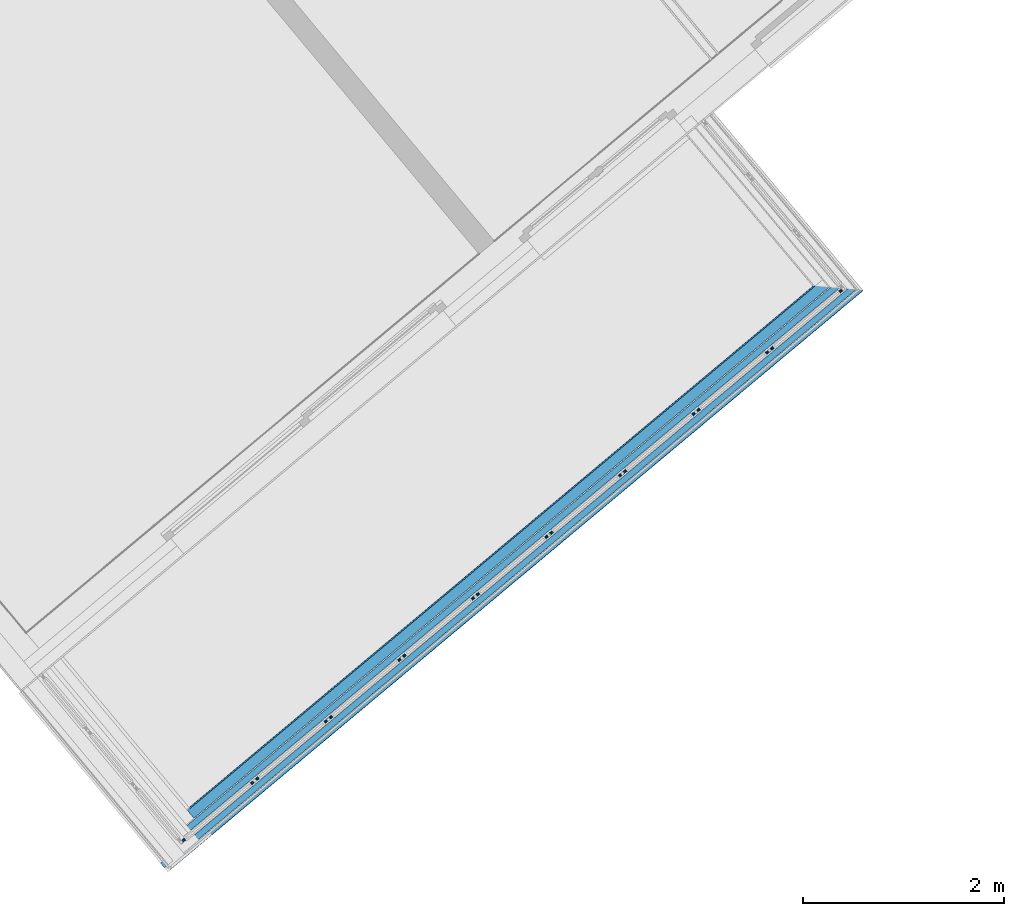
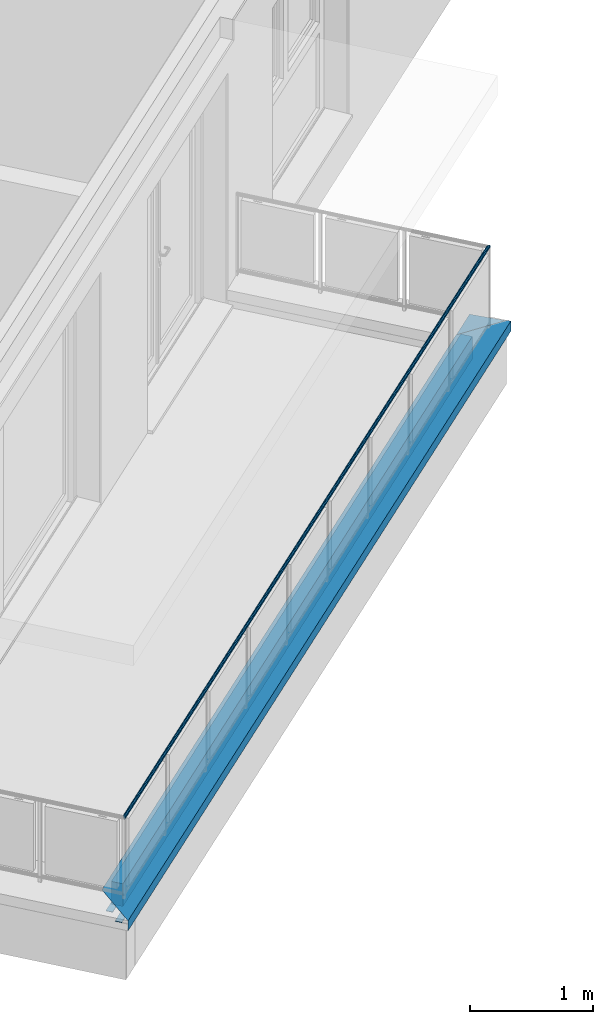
# One storey, part 20 of 53: 6 building element parts, 2 elements without a shape of their own.
"""IFC4 building model written with IfcOpenShell, lengths in metres."""

import ifcopenshell
import ifcopenshell.guid

model = None  # the IFC model being written
_history = None  # IfcOwnerHistory: only IFC2X3 demands one
_inside = {}  # id of a spatial element -> (the spatial element, [elements in it])
_under = {}  # id of a project, library or spatial element -> (it, [spatial elements below it])
_declared = {}  # id of a project -> (the project, [libraries it declares])
_typed = {}  # id of a type object -> (the type object, [elements of that type])
_made_of = {}  # id of a material, layer set ... -> (it, [elements and type objects made of it])


def new_model(schema):
    """Start an empty IFC model of exactly this schema.

    Asked for "IFC4X3", IfcOpenShell would pick the latest addendum, in which some entities
    have other attributes; the version numbers below select the first issue.
    IFC2X3 requires an IfcOwnerHistory on every rooted entity: one is made here for all.
    """
    global model, _history
    if schema == "IFC4X3":
        model = ifcopenshell.file(schema_version=(4, 3, 0, 0))
    else:
        model = ifcopenshell.file(schema=schema)
    _inside.clear()
    _under.clear()
    _declared.clear()
    _typed.clear()
    _made_of.clear()
    _history = None
    if model.schema == "IFC2X3":
        org = make("IfcOrganization", Name="unknown")
        user = make(
            "IfcPersonAndOrganization",
            ThePerson=make("IfcPerson", FamilyName="unknown"),
            TheOrganization=org,
        )
        app = make(
            "IfcApplication",
            ApplicationDeveloper=org,
            Version="unknown",
            ApplicationFullName="unknown",
            ApplicationIdentifier="unknown",
        )
        _history = make(
            "IfcOwnerHistory",
            OwningUser=user,
            OwningApplication=app,
            ChangeAction="ADDED",
            CreationDate=0,
        )
    return model


def make(cls, **values):
    """One entity of the class cls with the attributes given. An attribute that is None is left unset."""
    return model.create_entity(
        cls, **{name: value for name, value in values.items() if value is not None}
    )


def entity(cls, *values):
    """Any entity or typed value of the class cls, its attributes in the order of the schema. None: left unset."""
    e = model.create_entity(cls)
    for i, value in enumerate(values):
        if value is not None:
            e[i] = value
    return e


def rooted(cls, **values):
    """An entity with a GlobalId (a new one), such as an element, a storey or a relation."""
    return make(cls, GlobalId=ifcopenshell.guid.new(), OwnerHistory=_history, **values)


def si_unit(unit_type, name, prefix=None):
    """IfcSIUnit, for example si_unit("LENGTHUNIT", "METRE", prefix="MILLI")."""
    return make("IfcSIUnit", UnitType=unit_type, Prefix=prefix, Name=name)


def converted_unit(unit_type, name, factor, base, dimensions=None, offset=None):
    """IfcConversionBasedUnit, such as the inch: factor (a typed value) times the base unit."""
    return make(
        "IfcConversionBasedUnit"
        if offset is None
        else "IfcConversionBasedUnitWithOffset",
        ConversionOffset=offset,
        Dimensions=None
        if dimensions is None
        else entity("IfcDimensionalExponents", *dimensions),
        UnitType=unit_type,
        Name=name,
        ConversionFactor=make(
            "IfcMeasureWithUnit", ValueComponent=factor, UnitComponent=base
        ),
    )


def derived_unit(unit_type, elements):
    """IfcDerivedUnit: a product of units, each with its exponent."""
    return make(
        "IfcDerivedUnit",
        Elements=[
            make("IfcDerivedUnitElement", Unit=unit, Exponent=power)
            for unit, power in elements
        ],
        UnitType=unit_type,
    )


def assignment(units):
    """IfcUnitAssignment: the units of a project."""
    return None if units is None else make("IfcUnitAssignment", Units=units)


def point(xyz):
    """IfcCartesianPoint."""
    return None if xyz is None else make("IfcCartesianPoint", Coordinates=xyz)


def direction(xyz):
    """IfcDirection."""
    return None if xyz is None else make("IfcDirection", DirectionRatios=xyz)


def frame(location, z_axis=None, x_axis=None):
    """IfcAxis2Placement3D, a coordinate frame: its origin and axes. An axis left out is left unset."""
    return make(
        "IfcAxis2Placement3D",
        Location=point(location),
        Axis=direction(z_axis),
        RefDirection=direction(x_axis),
    )


def origin_with_axes():
    """The frame at (0, 0, 0) with the z axis (0, 0, 1) and the x axis (1, 0, 0) written out."""
    return frame((0.0, 0.0, 0.0), z_axis=(0.0, 0.0, 1.0), x_axis=(1.0, 0.0, 0.0))


def place(relative_to, where):
    """IfcLocalPlacement: puts the frame where relative to a parent placement (None: the world)."""
    return make(
        "IfcLocalPlacement", PlacementRelTo=relative_to, RelativePlacement=where
    )


def context(
    kind, dimensions, precision=None, world=None, true_north=None, identifier=None
):
    """IfcGeometricRepresentationContext, for example the 3D "Model" context."""
    return make(
        "IfcGeometricRepresentationContext",
        ContextIdentifier=identifier,
        ContextType=kind,
        CoordinateSpaceDimension=dimensions,
        Precision=precision,
        WorldCoordinateSystem=world,
        TrueNorth=true_north,
    )


def subcontext(parent, identifier, kind, view, scale=None):
    """IfcGeometricRepresentationSubContext, for example "Body" below "Model"."""
    return make(
        "IfcGeometricRepresentationSubContext",
        ContextIdentifier=identifier,
        ContextType=kind,
        ParentContext=parent,
        TargetScale=scale,
        TargetView=view,
    )


def project(units=None, contexts=None):
    """IfcProject with its units and contexts."""
    return rooted(
        "IfcProject",
        Name="project",
        RepresentationContexts=contexts,
        UnitsInContext=assignment(units),
    )


def spatial(cls, under=None, at=None, **own):
    """A site, building, storey or space (cls), placed at a placement, below another one or the project."""
    s = rooted(cls, ObjectPlacement=at, **own)
    if under is not None:
        _under.setdefault(under.id(), (under, []))[1].append(s)
    return s


def point_list(points):
    """IfcCartesianPointList2D or 3D."""
    cls = (
        "IfcCartesianPointList2D" if len(points[0]) == 2 else "IfcCartesianPointList3D"
    )
    return make(cls, CoordList=points)


def polygons(points, faces, closed=None, point_numbers=None):
    """IfcPolygonalFaceSet: a face is its outer loop, then its inner loops; points numbered from 1."""
    made = []
    for loops in faces:
        if len(loops) == 1:
            made.append(make("IfcIndexedPolygonalFace", CoordIndex=loops[0]))
        else:
            made.append(
                make(
                    "IfcIndexedPolygonalFaceWithVoids",
                    CoordIndex=loops[0],
                    InnerCoordIndices=loops[1:],
                )
            )
    return make(
        "IfcPolygonalFaceSet",
        Coordinates=point_list(points),
        Closed=closed,
        Faces=made,
        PnIndex=point_numbers,
    )


def shape(context_of_items, identifier, shape_type, items):
    """IfcShapeRepresentation: the items that make up one representation, for example the "Body"."""
    return make(
        "IfcShapeRepresentation",
        ContextOfItems=context_of_items,
        RepresentationIdentifier=identifier,
        RepresentationType=shape_type,
        Items=items,
    )


def material(Name=None, Category=None):
    """IfcMaterial."""
    return make("IfcMaterial", Name=Name, Category=Category)


def made_of(thing, what):
    """Note that an element or type object is made of a material, layer set ...; save() writes the relation."""
    if what is not None:
        _made_of.setdefault(what.id(), (what, []))[1].append(thing)
    return thing


def type_object(cls, material=None, **own):
    """A type object (cls), such as IfcWallType, which elements share."""
    return made_of(rooted(cls, **own), material)


def element(
    cls,
    number,
    at=None,
    inside=None,
    cuts=None,
    type_object=None,
    material=None,
    context=None,
    identifier="Body",
    shape_type=None,
    held_by="IfcProductDefinitionShape",
    body=None,
    shapes=None,
    **own,
):
    """One element of the class cls, such as IfcWall. Its Tag is "e" and its number.

    at: its placement. inside: the storey or other place that contains it. cuts: it is an
    opening in that element (IfcRelVoidsElement). A single representation is given by context,
    identifier, shape_type and body (its items); several are given by shapes. held_by: the class
    of the entity that holds the representations. save() writes the other relations.
    """
    e = rooted(cls, Tag="e%d" % number, ObjectPlacement=at, **own)
    if body is not None:
        shapes = [shape(context, identifier, shape_type, body)]
    if shapes is not None:
        e.Representation = make(held_by, Representations=shapes)
    if inside is not None:
        _inside.setdefault(inside.id(), (inside, []))[1].append(e)
    if cuts is not None:
        rooted(
            "IfcRelVoidsElement", RelatingBuildingElement=cuts, RelatedOpeningElement=e
        )
    if type_object is not None:
        _typed.setdefault(type_object.id(), (type_object, []))[1].append(e)
    return made_of(e, material)


def aggregate(whole, parts):
    """IfcRelAggregates: a whole, such as a stair, and the parts it consists of."""
    return rooted("IfcRelAggregates", RelatingObject=whole, RelatedObjects=parts)


def save(model, path):
    """Write the relations noted so far, then the file.

    IfcRelAggregates (storeys below a building ...), IfcRelContainedInSpatialStructure (elements
    in a storey), IfcRelDefinesByType, IfcRelAssociatesMaterial and IfcRelDeclares: one each for
    every whole, place, type object, material and project.
    """
    for whole, parts in _under.values():
        aggregate(whole, parts)
    for where, things in _inside.values():
        rooted(
            "IfcRelContainedInSpatialStructure",
            RelatedElements=things,
            RelatingStructure=where,
        )
    for kind, things in _typed.values():
        rooted("IfcRelDefinesByType", RelatedObjects=things, RelatingType=kind)
    for what, things in _made_of.values():
        rooted("IfcRelAssociatesMaterial", RelatedObjects=things, RelatingMaterial=what)
    for by, libraries in _declared.values():
        rooted("IfcRelDeclares", RelatingContext=by, RelatedDefinitions=libraries)
    model.write(path)


model = new_model("IFC4")

# Units and contexts
model_context = context("Model", 3, precision=1e-05, world=origin_with_axes(), true_north=direction((0.0, 1.0)))
body_context = subcontext(model_context, "Body", "Model", "MODEL_VIEW")
ifc_project = project(units=[si_unit("LENGTHUNIT", "METRE"), si_unit("AREAUNIT", "SQUARE_METRE"), si_unit("VOLUMEUNIT", "CUBIC_METRE"), converted_unit("PLANEANGLEUNIT", "DEGREE", entity("IfcPlaneAngleMeasure", 0.0174532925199), si_unit("PLANEANGLEUNIT", "RADIAN"), dimensions=[0, 0, 0, 0, 0, 0, 0]), converted_unit("TIMEUNIT", "Year", entity("IfcTimeMeasure", 31556926.0), si_unit("TIMEUNIT", "SECOND"), dimensions=[0, 0, 1, 0, 0, 0, 0]), si_unit("MASSUNIT", "GRAM", prefix="KILO"), si_unit("THERMODYNAMICTEMPERATUREUNIT", "DEGREE_CELSIUS"), si_unit("LUMINOUSINTENSITYUNIT", "LUMEN"), si_unit("ENERGYUNIT", "JOULE", prefix="MEGA"), derived_unit("THERMALCONDUCTANCEUNIT", [(si_unit("POWERUNIT", "WATT"), 1), (si_unit("LENGTHUNIT", "METRE"), -1), (si_unit("THERMODYNAMICTEMPERATUREUNIT", "KELVIN"), -1)]), derived_unit("SPECIFICHEATCAPACITYUNIT", [(si_unit("ENERGYUNIT", "JOULE"), 1), (si_unit("MASSUNIT", "GRAM", prefix="KILO"), -1), (si_unit("THERMODYNAMICTEMPERATUREUNIT", "KELVIN"), -1)]), derived_unit("MASSDENSITYUNIT", [(si_unit("MASSUNIT", "GRAM", prefix="KILO"), 1), (si_unit("VOLUMEUNIT", "CUBIC_METRE"), -1)])], contexts=[model_context])

# Site, building, storey
site_placement = place(None, frame((-0.00153261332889, -0.00661245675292, 0.0), z_axis=(0.0, 0.0, 1.0), x_axis=(1.0, 0.0, 0.0)))
site = spatial("IfcSite", under=ifc_project, at=site_placement, Name="Gelände", CompositionType="ELEMENT")
building_placement = place(site_placement, origin_with_axes())
building = spatial("IfcBuilding", under=site, at=building_placement, Name="Gebäude", CompositionType="ELEMENT")
storey_placement = place(building_placement, frame((0.0, 0.0, 2.74), z_axis=(0.0, 0.0, 1.0), x_axis=(1.0, 0.0, 0.0)))
storey = spatial("IfcBuildingStorey", under=building, at=storey_placement, Name="OG1", CompositionType="ELEMENT", Elevation=2.74)

# Wall, building element parts
wall_type = type_object("IfcWallType", Name="Bauteil - Attika Balkon 356 x 610", PredefinedType="NOTDEFINED")
wall_placement = place(storey_placement, frame((0.456081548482, 6.75437498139, -0.2), z_axis=(0.0, 0.0, 1.0), x_axis=(0.767288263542, 0.641302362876, 0.0)))
wall = element("IfcWall", 1, at=wall_placement, inside=storey, type_object=wall_type, Name="Wand-003", PredefinedType="NOTDEFINED")
ifc_material_1 = material(Name="Stahl")
building_element_part_1_placement = place(wall_placement, origin_with_axes())
building_element_part_1 = element("IfcBuildingElementPart", 2, at=building_element_part_1_placement, material=ifc_material_1, Name="Stahl", PredefinedType="NOTDEFINED", context=body_context, shape_type="Tessellation", body=[
    polygons([(-0.241610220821, -0.241359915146, 0.608602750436), (-0.241610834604, -0.242707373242, 0.608602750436), (-0.24161032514, -0.242707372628, 0.608652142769), (-0.24160949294, -0.24135992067, 0.60865214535), (-0.240263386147, -0.242707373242, 0.608602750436), (-0.240262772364, -0.241359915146, 0.608602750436), (-0.241610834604, -0.242707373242, 0.581921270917), (-0.241610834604, -0.242707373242, 0.575979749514), (-0.240261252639, -0.242707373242, 0.575979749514), (-0.240261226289, -0.242707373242, 0.575576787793), (-0.240261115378, -0.242707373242, 0.573880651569), (-0.240260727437, -0.242707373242, 0.567947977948), (-0.240260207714, -0.242707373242, 0.559999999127), (-0.240257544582, -0.242707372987, 0.519273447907), (-0.240257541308, -0.242707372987, 0.519224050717), (-0.240257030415, -0.242707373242, 0.511410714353), (-0.240207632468, -0.242707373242, 0.511410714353), (-0.23829307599, -0.242707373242, 0.511410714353), (-0.238342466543, -0.242707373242, 0.511361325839), (-0.239646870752, -0.242707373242, 0.510056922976), (8.77665950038, -0.242707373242, 0.510056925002), (8.77665950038, -0.242707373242, 0.610055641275), (0.0, -0.242707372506, 0.610055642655), (0.0, -0.242707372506, 0.610006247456), (-0.241610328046, -0.242707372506, 0.610006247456), (-0.204205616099, -0.242707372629, 0.608652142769), (-0.24026338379, -0.242707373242, 0.608570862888), (-0.240262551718, -0.242707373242, 0.595846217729), (-0.240262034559, -0.242707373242, 0.587937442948), (-0.240261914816, -0.242707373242, 0.586106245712), (-0.240261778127, -0.242707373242, 0.584015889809), (-0.240261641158, -0.242707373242, 0.581921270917), (-0.204205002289, -0.241359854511, 0.608652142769), (-0.24161021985, -0.241357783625, 0.575979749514), (-0.241610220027, -0.241358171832, 0.581921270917), (-0.240261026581, -0.241358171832, 0.581921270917), (-0.240261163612, -0.24135830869, 0.584015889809), (-0.240261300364, -0.24135844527, 0.586106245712), (-0.240261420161, -0.241358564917, 0.587937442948), (-0.240261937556, -0.24135908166, 0.595846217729), (-0.240262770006, -0.241359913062, 0.608570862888), (8.77530901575, -0.241359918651, 0.608652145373), (8.77665646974, -0.24135992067, 0.60865214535), (8.77665645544, -0.241353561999, 0.511410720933), (8.77530264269, -0.241353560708, 0.511410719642), (-0.238292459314, -0.241353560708, 0.511410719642), (-0.240207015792, -0.241353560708, 0.511410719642), (-0.240256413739, -0.241353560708, 0.511410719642), (-0.240256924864, -0.241354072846, 0.519224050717), (-0.240256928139, -0.241354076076, 0.519273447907), (-0.240259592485, -0.241356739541, 0.559999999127), (-0.240260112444, -0.241357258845, 0.567947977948), (-0.240260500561, -0.241357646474, 0.573880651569), (-0.240260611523, -0.241357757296, 0.575576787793), (-0.240260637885, -0.241357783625, 0.575979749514), (-0.23829158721, -0.239439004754, 0.511410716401), (-0.238341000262, -0.239488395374, 0.511361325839), (-0.240603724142, -0.241750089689, 0.509099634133), (8.77570006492, -0.241750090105, 0.509099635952), (8.77665519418, -0.240792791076, 0.510056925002), (8.77665215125, -0.239439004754, 0.511410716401), (8.77657233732, -0.203952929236, 0.60865214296), (-0.204187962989, -0.203952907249, 0.608652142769), (-0.241609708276, -0.241343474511, 0.610006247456), (0.0, -0.241343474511, 0.610006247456), (8.77522488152, -0.203952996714, 0.608652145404), (8.77313639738, -0.201708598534, 0.608570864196), (8.45697235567, 0.113600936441, 0.597151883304), (0.113635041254, 0.113600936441, 0.597151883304), (-0.201941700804, -0.201708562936, 0.608570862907), (-0.20282294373, -0.202589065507, 0.608602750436), (-0.202840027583, -0.240093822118, 0.608602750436), (-0.201958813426, -0.23927647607, 0.608570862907), (8.77322089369, -0.23927649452, 0.608570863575), (8.77529833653, -0.239439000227, 0.511410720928), (-0.240253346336, -0.233490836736, 0.519273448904), (-0.240253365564, -0.233540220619, 0.519224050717), (-0.232390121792, -0.233540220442, 0.519224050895), (-0.231480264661, -0.23454447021, 0.518219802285), (8.7674222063, -0.233490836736, 0.519273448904), (-0.231479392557, -0.232629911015, 0.518219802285), (-0.231524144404, -0.232580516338, 0.518269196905), (8.76842441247, -0.232580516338, 0.518269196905), (8.42090574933, 0.112247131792, 0.5958462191), (8.4209027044, 0.113600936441, 0.5958462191), (0.149702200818, 0.113600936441, 0.595846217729), (8.4209026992, 0.113600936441, 0.586106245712), (8.42090269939, 0.113600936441, 0.584015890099), (8.42090269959, 0.113600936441, 0.581921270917), (8.42090269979, 0.113600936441, 0.579822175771), (8.42090270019, 0.113600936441, 0.575576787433), (8.42090270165, 0.113600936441, 0.560000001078), (8.42090270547, 0.113600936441, 0.519273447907), (8.4209027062, 0.113600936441, 0.511410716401), (8.42090270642, 0.113600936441, 0.509099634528), (8.4209027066, 0.113600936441, 0.506731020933), (8.42090270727, 0.113600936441, 0.499999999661), (8.42090270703, 0.113600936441, 0.498915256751), (8.4228172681, 0.113600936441, 0.498915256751), (8.42146345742, 0.113600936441, 0.497561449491), (0.332103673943, 0.113600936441, 0.497561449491), (0.332103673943, 0.113600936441, 0.498822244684), (0.332103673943, 0.113600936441, 0.498915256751), (0.332103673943, 0.113600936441, 0.499999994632), (0.332103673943, 0.113600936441, 0.506731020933), (0.332103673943, 0.113600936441, 0.509050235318), (0.332103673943, 0.113600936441, 0.509099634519), (0.332103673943, 0.113600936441, 0.51136132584), (0.332103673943, 0.113600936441, 0.511410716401), (0.332103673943, 0.113600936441, 0.519224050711), (0.332103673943, 0.113600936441, 0.519273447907), (0.332103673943, 0.113600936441, 0.560000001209), (0.332103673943, 0.113600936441, 0.567947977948), (0.332103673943, 0.113600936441, 0.573880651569), (0.332103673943, 0.113600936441, 0.575576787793), (0.332103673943, 0.113600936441, 0.575979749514), (0.332103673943, 0.113600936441, 0.57982217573), (0.332103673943, 0.113600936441, 0.581921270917), (0.332103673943, 0.113600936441, 0.584015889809), (0.332103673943, 0.113600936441, 0.586106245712), (0.332103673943, 0.113600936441, 0.587937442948), (0.332103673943, 0.113600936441, 0.589243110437), (0.149701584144, 0.112247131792, 0.595846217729), (-0.240253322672, -0.233446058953, 0.519224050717), (-0.2323900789, -0.233446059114, 0.519224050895), (8.42090574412, 0.112247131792, 0.586106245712), (8.42090574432, 0.112247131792, 0.584015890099), (8.42090574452, 0.112247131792, 0.581921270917), (8.42090574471, 0.112247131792, 0.579822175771), (8.42090574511, 0.112247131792, 0.575576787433), (8.42090574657, 0.112247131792, 0.560000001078), (8.42090575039, 0.112247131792, 0.519273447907), (8.42090575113, 0.112247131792, 0.511410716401), (8.42090575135, 0.112247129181, 0.509099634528), (8.42090575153, 0.112247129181, 0.506731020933), (8.4209057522, 0.112247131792, 0.499999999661), (8.42090575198, 0.112247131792, 0.498915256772), (8.42282031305, 0.112247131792, 0.498915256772), (8.42282461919, 0.110332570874, 0.498915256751), (8.42050832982, 0.112643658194, 0.496604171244), (0.332103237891, 0.112643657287, 0.496604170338), (0.332102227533, 0.110425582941, 0.498822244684), (0.332103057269, 0.112247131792, 0.498915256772), (0.332102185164, 0.110332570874, 0.498915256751), (0.332103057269, 0.112247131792, 0.499999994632), (0.332103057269, 0.112247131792, 0.506731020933), (0.332103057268, 0.112247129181, 0.509050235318), (0.332103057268, 0.112247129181, 0.509099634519), (0.332103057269, 0.112247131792, 0.51136132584), (0.332103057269, 0.112247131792, 0.511410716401), (0.332103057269, 0.112247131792, 0.519224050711), (0.332103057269, 0.112247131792, 0.519273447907), (0.332103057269, 0.112247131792, 0.560000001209), (0.332103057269, 0.112247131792, 0.567947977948), (0.332103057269, 0.112247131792, 0.573880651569), (0.332103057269, 0.112247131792, 0.575576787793), (0.332103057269, 0.112247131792, 0.575979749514), (0.332103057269, 0.112247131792, 0.57982217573), (0.332103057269, 0.112247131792, 0.581921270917), (0.332103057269, 0.112247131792, 0.584015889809), (0.332103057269, 0.112247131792, 0.586106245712), (0.332103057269, 0.112247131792, 0.587937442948), (0.332103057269, 0.112247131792, 0.589243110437), (0.330748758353, 0.11116240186, 0.499999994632), (0.300050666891, 0.11116240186, 0.499999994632), (0.300047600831, 0.104431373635, 0.506731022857), (8.42873910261, 0.104431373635, 0.506731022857), (8.42974130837, 0.10534169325, 0.505820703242), (8.42390749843, 0.11116239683, 0.499999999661), (0.33074925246, 0.112247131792, 0.498915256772), (0.300049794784, 0.109247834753, 0.499999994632), (0.330747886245, 0.109247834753, 0.499999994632), (0.330748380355, 0.110332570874, 0.498915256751), (8.4239118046, 0.109247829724, 0.499999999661), (8.42974561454, 0.103427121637, 0.505820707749), (0.300047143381, 0.103427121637, 0.505820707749)], [[[1, 2, 3, 4]], [[5, 2, 1, 6]], [[7, 8, 9, 10, 11, 12, 13, 14, 15, 16, 17, 18, 19, 20, 21, 22, 23, 24, 25, 26, 3, 2, 5, 27, 28, 29, 30, 31, 32]], [[4, 3, 26, 33]], [[34, 35, 36, 37, 38, 39, 40, 41, 6, 1, 4, 33, 42, 43, 44, 45, 46, 47, 48, 49, 50, 51, 52, 53, 54, 55]], [[27, 5, 6, 41]], [[8, 7, 35, 34]], [[9, 8, 34, 55]], [[10, 9, 55, 54]], [[11, 10, 54, 53]], [[12, 11, 53, 52]], [[13, 12, 52, 51]], [[14, 13, 51, 50]], [[15, 14, 50, 49]], [[48, 16, 15, 49]], [[16, 48, 47, 17]], [[17, 47, 46, 18]], [[56, 57, 19, 18, 46]], [[57, 58, 20, 19]], [[20, 58, 59, 21]], [[21, 60, 61, 44, 43, 62, 22]], [[63, 64, 65, 23, 22, 62, 66, 67, 68, 69, 70, 71]], [[65, 24, 23]], [[64, 25, 24, 65]], [[25, 64, 63, 33, 26]], [[28, 27, 41, 40]], [[29, 28, 40, 39]], [[30, 29, 39, 38]], [[31, 30, 38, 37]], [[32, 31, 37, 36]], [[35, 7, 32, 36]], [[72, 73, 74, 42, 33]], [[42, 66, 62, 43]], [[75, 45, 44, 61]], [[76, 77, 78, 79, 46, 45, 80]], [[58, 57, 56, 81, 82, 83, 75, 61, 60, 59]], [[56, 46, 79, 81]], [[21, 59, 60]], [[67, 66, 42, 74]], [[67, 74, 84, 85, 68]], [[86, 69, 68, 85, 87, 88, 89, 90, 91, 92, 93, 94, 95, 96, 97, 98, 99, 100, 101, 102, 103, 104, 105, 106, 107, 108, 109, 110, 111, 112, 113, 114, 115, 116, 117, 118, 119, 120, 121, 122]], [[123, 73, 70, 69, 86]], [[71, 70, 73, 72]], [[63, 71, 72, 33]], [[73, 123, 84, 74]], [[45, 75, 83, 80]], [[76, 124, 77]], [[77, 124, 125, 78]], [[125, 82, 81, 79, 78]], [[124, 76, 80, 83, 82, 125]], [[84, 126, 87, 85]], [[126, 127, 88, 87]], [[89, 88, 127, 128]], [[90, 89, 128, 129]], [[91, 90, 129, 130]], [[130, 131, 92, 91]], [[131, 132, 93, 92]], [[132, 133, 94, 93]], [[133, 134, 95, 94]], [[134, 135, 96, 95]], [[135, 136, 97, 96]], [[136, 137, 98, 97]], [[98, 137, 138, 99]], [[139, 140, 100, 99, 138]], [[141, 101, 100, 140]], [[142, 102, 101, 141]], [[143, 103, 102, 142, 144]], [[103, 143, 145, 104]], [[104, 145, 146, 105]], [[147, 106, 105, 146]], [[106, 147, 148, 107]], [[148, 149, 108, 107]], [[149, 150, 109, 108]], [[150, 151, 110, 109]], [[151, 152, 111, 110]], [[152, 153, 112, 111]], [[153, 154, 113, 112]], [[154, 155, 114, 113]], [[155, 156, 115, 114]], [[115, 156, 157, 116]], [[116, 157, 158, 117]], [[117, 158, 159, 118]], [[118, 159, 160, 119]], [[119, 160, 161, 120]], [[120, 161, 162, 121]], [[121, 162, 163, 122]], [[123, 86, 122, 163]], [[145, 143, 137, 136, 135, 134, 133, 132, 131, 130, 129, 128, 127, 126, 84, 123, 163, 162, 161, 160, 159, 158, 157, 156, 155, 154, 153, 152, 151, 150, 149, 148, 147, 146]], [[164, 165, 166, 167, 168, 169, 138, 137, 143, 170]], [[171, 172, 173, 144, 142, 141, 140, 139, 174, 175, 176]], [[174, 139, 138, 169]], [[170, 143, 144, 173]], [[171, 165, 164, 172]], [[165, 171, 176, 166]], [[166, 176, 175, 167]], [[168, 167, 175]], [[175, 174, 169, 168]], [[164, 170, 173, 172]]], closed=True),
])
ifc_material_2 = material(Name="Holzwerkstoff")
building_element_part_2_placement = place(wall_placement, origin_with_axes())
building_element_part_2 = element("IfcBuildingElementPart", 3, at=building_element_part_2_placement, material=ifc_material_2, Name="Holzwerkstoff", PredefinedType="NOTDEFINED", context=body_context, shape_type="Tessellation", body=[
    polygons([(0.330547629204, -0.189984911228, 0.586106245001), (0.330501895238, -0.13012497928, 0.584015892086), (8.66382360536, -0.130124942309, 0.584015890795), (8.72381840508, -0.189984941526, 0.586106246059), (0.330612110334, 0.111834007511, 0.584015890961), (0.330685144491, 0.111907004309, 0.586106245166), (0.330456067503, -0.0701429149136, 0.581921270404), (8.60370647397, -0.0701429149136, 0.581921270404), (8.66327940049, 0.111834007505, 0.584015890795), (8.72313932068, 0.111907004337, 0.586106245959), (0.330585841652, -0.23999998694, 0.587852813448), (8.77394602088, -0.239999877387, 0.587852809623), (0.330538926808, 0.111760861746, 0.581921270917), (0.330749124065, 0.111970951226, 0.587937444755), (0.330588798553, -0.239997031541, 0.587937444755), (0.112278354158, 0.112247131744, 0.595846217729), (8.77287462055, 0.112247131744, 0.595846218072), (8.77315438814, 0.111967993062, 0.587852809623), (8.60329734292, 0.111760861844, 0.581921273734), (8.54318713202, 0.111687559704, 0.579822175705), (8.42161516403, 0.111539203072, 0.575576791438), (0.33031725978, 0.111539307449, 0.575576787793), (0.330331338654, 0.111553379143, 0.57597974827), (0.330465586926, 0.111687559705, 0.57982217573), (0.330410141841, -0.0100326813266, 0.579822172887), (8.54346090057, -0.0100326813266, 0.579822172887), (-0.239385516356, -0.239276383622, 0.608570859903), (0.112118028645, -0.239720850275, 0.595846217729), (8.77366625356, -0.239720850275, 0.595846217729), (8.77322089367, -0.23927649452, 0.608570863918), (0.330326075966, 0.100000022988, 0.575979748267)], [[[1, 2, 3, 4]], [[5, 2, 1, 6]], [[2, 7, 8, 3]], [[9, 10, 4, 3]], [[11, 1, 4, 12]], [[7, 2, 5, 13]], [[14, 6, 1, 11, 15]], [[14, 16, 17, 18, 10, 9, 19, 20, 21, 22, 23, 24, 13, 5, 6]], [[7, 25, 26, 8]], [[8, 19, 9, 3]], [[10, 18, 12, 4]], [[27, 28, 15, 11, 12, 29, 30]], [[25, 7, 13, 24]], [[28, 16, 14, 15]], [[16, 27, 30, 17]], [[18, 17, 29, 12]], [[8, 26, 20, 19]], [[26, 21, 20]], [[31, 22, 21, 26, 25]], [[23, 22, 31]], [[25, 24, 23, 31]], [[16, 28, 27]], [[30, 29, 17]]], closed=True),
])
ifc_material_3 = material(Name="EPS 1")
building_element_part_3_placement = place(wall_placement, origin_with_axes())
building_element_part_3 = element("IfcBuildingElementPart", 4, at=building_element_part_3_placement, material=ifc_material_3, Name="EPS 1", PredefinedType="NOTDEFINED", context=body_context, shape_type="Tessellation", body=[
    polygons([(0.300000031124, -2.3990853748e-10, 0.335), (0.300000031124, -2.3990853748e-10, 0.488695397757), (0.300045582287, 0.0999999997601, 0.488695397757), (0.300045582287, 0.0999999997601, 0.335), (8.53340562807, -2.3990853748e-10, 0.334999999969), (8.53340562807, -2.3990853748e-10, 0.496604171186), (8.53340562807, -2.3990853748e-10, 0.498915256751), (8.53340562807, -2.3990853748e-10, 0.500000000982), (8.53340562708, -2.39907649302e-10, 0.506731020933), (8.53340562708, -2.39905872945e-10, 0.509099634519), (8.53340562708, -1.02249231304e-09, 0.511410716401), (8.53340562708, -1.02255448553e-09, 0.519273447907), (8.53340562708, -1.02287334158e-09, 0.560000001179), (0.300000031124, -2.39909425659e-10, 0.560000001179), (0.300000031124, 1.28497745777e-09, 0.519273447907), (0.300000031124, 1.28497745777e-09, 0.519224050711), (0.300000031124, -2.39907649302e-10, 0.511410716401), (0.300000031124, -2.39907649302e-10, 0.51136132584), (0.300000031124, -2.39907649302e-10, 0.509099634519), (0.300000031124, -2.39907649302e-10, 0.509050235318), (0.300000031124, -2.39907649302e-10, 0.506731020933), (0.300000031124, -2.39907649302e-10, 0.499999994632), (0.300000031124, -2.39907649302e-10, 0.498915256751), (0.300000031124, -2.39907649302e-10, 0.498822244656), (0.300000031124, -2.39907649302e-10, 0.496604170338), (0.300000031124, -2.3990853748e-10, 0.491006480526), (0.300045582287, 0.0999999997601, 0.491006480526), (0.300045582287, 0.0999999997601, 0.496604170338), (0.300045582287, 0.0999999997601, 0.498822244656), (0.300045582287, 0.0999999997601, 0.498915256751), (0.300045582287, 0.0999999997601, 0.499999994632), (0.300045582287, 0.0999999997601, 0.506731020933), (0.300045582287, 0.0999999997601, 0.509050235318), (0.300045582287, 0.0999999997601, 0.509099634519), (0.300045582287, 0.0999999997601, 0.51136132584), (0.300045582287, 0.0999999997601, 0.511410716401), (0.300045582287, 0.0999999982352, 0.519224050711), (0.300045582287, 0.0999999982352, 0.519273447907), (0.300045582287, 0.0999999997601, 0.560000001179), (8.53318071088, 0.100000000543, 0.560000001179), (8.53318071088, 0.100000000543, 0.519273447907), (8.53318071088, 0.100000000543, 0.511410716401), (8.53318071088, 0.0999999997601, 0.509099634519), (8.53318071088, 0.0999999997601, 0.506731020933), (8.53318071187, 0.0999999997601, 0.500000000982), (8.53318071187, 0.0999999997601, 0.498915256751), (8.53318071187, 0.0999999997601, 0.496604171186), (8.53318071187, 0.0999999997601, 0.334999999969)], [[[1, 2, 3, 4]], [[2, 1, 5, 6, 7, 8, 9, 10, 11, 12, 13, 14, 15, 16, 17, 18, 19, 20, 21, 22, 23, 24, 25, 26]], [[2, 26, 27, 3]], [[4, 3, 27, 28, 29, 30, 31, 32, 33, 34, 35, 36, 37, 38, 39, 40, 41, 42, 43, 44, 45, 46, 47, 48]], [[1, 4, 48, 5]], [[6, 5, 48, 47]], [[7, 6, 47, 46]], [[8, 7, 46, 45]], [[9, 8, 45, 44]], [[10, 9, 44, 43]], [[11, 10, 43, 42]], [[42, 41, 12, 11]], [[41, 40, 13, 12]], [[39, 14, 13, 40]], [[14, 39, 38, 15]], [[37, 16, 15, 38]], [[36, 17, 16, 37]], [[35, 18, 17, 36]], [[34, 19, 18, 35]], [[19, 34, 33, 20]], [[32, 21, 20, 33]], [[21, 32, 31, 22]], [[30, 23, 22, 31]], [[29, 24, 23, 30]], [[28, 25, 24, 29]], [[26, 25, 28, 27]]], closed=True),
])
ifc_material_4 = material(Name="Vollholz")
building_element_part_4_placement = place(wall_placement, origin_with_axes())
building_element_part_4 = element("IfcBuildingElementPart", 5, at=building_element_part_4_placement, material=ifc_material_4, Name="Vollholz", PredefinedType="NOTDEFINED", context=body_context, shape_type="Tessellation", body=[
    polygons([(-0.130156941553, -0.0701429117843, 0.575979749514), (-0.130129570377, -0.0100540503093, 0.575979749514), (0.0999954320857, -0.010054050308, 0.575979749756), (0.0999680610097, -0.0701429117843, 0.575979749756), (-0.130156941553, -0.0701429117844, 0.57982217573), (-0.130129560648, -0.0100326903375, 0.57982217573), (8.60357127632, -0.0100326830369, 0.579822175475), (8.60357132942, -0.0100562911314, 0.575576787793), (8.60357152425, -0.0101429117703, 0.560000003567), (0.159995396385, -0.0101429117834, 0.560000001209), (0.160058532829, -0.0100987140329, 0.567947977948), (0.160105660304, -0.0100657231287, 0.573880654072), (0.111534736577, -0.0100562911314, 0.575576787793), (0.111507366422, -0.0701429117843, 0.575576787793), (0.160078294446, -0.0701429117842, 0.573880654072), (0.160031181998, -0.0701429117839, 0.567947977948), (0.159968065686, -0.0701429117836, 0.560000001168), (8.60370647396, -0.0701429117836, 0.560000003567), (8.60370647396, -0.0701429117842, 0.575576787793), (8.60370647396, -0.0701429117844, 0.57982217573), (8.60370647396, -0.0701429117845, 0.581921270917), (-0.130156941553, -0.0701429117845, 0.581921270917)], [[[1, 2, 3, 4]], [[1, 5, 6, 2]], [[2, 6, 7, 8, 9, 10, 11, 12, 13, 3]], [[3, 13, 14, 4]], [[5, 1, 4, 14, 15, 16, 17, 18, 19, 20, 21, 22]], [[5, 22, 6]], [[6, 22, 21, 7]], [[8, 7, 20, 19]], [[9, 8, 19, 18]], [[17, 10, 9, 18]], [[10, 17, 16, 11]], [[16, 15, 12, 11]], [[14, 13, 12, 15]], [[21, 20, 7]]], closed=True),
])
building_element_part_5_placement = place(wall_placement, origin_with_axes())
building_element_part_5 = element("IfcBuildingElementPart", 6, at=building_element_part_5_placement, material=ifc_material_4, Name="Vollholz", PredefinedType="NOTDEFINED", context=body_context, shape_type="Tessellation", body=[
    polygons([(-0.241586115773, -0.190039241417, 0.575979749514), (-0.241586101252, -0.190007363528, 0.581921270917), (-0.241558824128, -0.130124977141, 0.581921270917), (-0.241558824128, -0.130124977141, 0.575979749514), (-0.240237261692, -0.190039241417, 0.575979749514), (-0.190125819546, -0.190039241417, 0.575979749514), (-0.130211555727, -0.190039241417, 0.575979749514), (-0.130211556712, -0.190041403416, 0.575576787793), (-0.130211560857, -0.190050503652, 0.573880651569), (-0.130211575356, -0.19008233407, 0.567947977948), (-0.13021159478, -0.190124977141, 0.560000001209), (8.72395870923, -0.190124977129, 0.560000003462), (8.72387494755, -0.190041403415, 0.575576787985), (8.72385211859, -0.190018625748, 0.57982217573), (8.72384083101, -0.190007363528, 0.581921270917), (8.7238295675, -0.189996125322, 0.584015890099), (8.72381840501, -0.189984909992, 0.586106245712), (-0.190071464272, -0.18998491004, 0.586106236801), (-0.130211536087, -0.189996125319, 0.584015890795), (-0.130211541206, -0.190007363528, 0.581921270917), (-0.190093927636, -0.190007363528, 0.581921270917), (-0.240237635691, -0.190007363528, 0.581921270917), (-0.240210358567, -0.130124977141, 0.581921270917), (-0.240209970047, -0.130124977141, 0.575979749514), (-0.190066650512, -0.130124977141, 0.581921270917), (-0.130184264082, -0.130124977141, 0.581921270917), (-0.130184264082, -0.130124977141, 0.584015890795), (8.72369490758, -0.130124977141, 0.584015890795), (8.72370614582, -0.130124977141, 0.581921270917), (8.72371740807, -0.130124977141, 0.57982217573), (8.7237401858, -0.130124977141, 0.575576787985), (8.72382375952, -0.130124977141, 0.560000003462), (-0.130184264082, -0.130124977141, 0.560000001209), (-0.130184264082, -0.130124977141, 0.567947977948), (-0.130184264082, -0.130124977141, 0.573880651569), (-0.130184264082, -0.130124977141, 0.575576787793), (-0.130184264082, -0.130124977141, 0.575979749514), (-0.190098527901, -0.130124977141, 0.575979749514)], [[[1, 2, 3, 4]], [[1, 5, 6, 7, 8, 9, 10, 11, 12, 13, 14, 15, 16, 17, 18, 19, 20, 21, 22, 2]], [[2, 22, 23, 3]], [[24, 4, 3, 23, 25, 26, 27, 28, 29, 30, 31, 32, 33, 34, 35, 36, 37, 38]], [[5, 1, 4, 24]], [[6, 5, 24, 38]], [[6, 38, 37, 7]], [[37, 36, 8, 7]], [[36, 35, 9, 8]], [[10, 9, 35, 34]], [[33, 11, 10, 34]], [[11, 33, 32, 12]], [[13, 12, 32, 31]], [[31, 30, 14, 13]], [[30, 29, 15, 14]], [[29, 28, 16, 15]], [[16, 28, 17]], [[27, 18, 17, 28]], [[19, 18, 27]], [[27, 26, 20, 19]], [[25, 21, 20, 26]], [[22, 21, 25, 23]]], closed=True),
])
aggregate(wall, [building_element_part_1, building_element_part_2, building_element_part_3, building_element_part_4, building_element_part_5])

# Space
space_placement = place(storey_placement, frame((5.82112883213, 13.939405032, 0.22), z_axis=(0.0, 0.0, 1.0), x_axis=(-0.766948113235, -0.641709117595, 0.0)))
space = spatial("IfcSpace", under=storey, at=space_placement, CompositionType="ELEMENT", PredefinedType="NOTDEFINED")

# Railing, building element part
railing_type = type_object("IfcRailingType", Name="Geländerart", PredefinedType="NOTDEFINED")
railing_placement = place(space_placement, frame((8.7233739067, 0.0, 0.16), z_axis=(0.0, 0.0, 1.0), x_axis=(-0.766948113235, 0.641709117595, 0.0)))
railing = element("IfcRailing", 7, at=railing_placement, inside=space, type_object=railing_type, Name="Geländer - 001", PredefinedType="NOTDEFINED")
ifc_material_5 = material(Name="Aluminium")
building_element_part_6_placement = place(railing_placement, origin_with_axes())
building_element_part_6 = element("IfcBuildingElementPart", 8, at=building_element_part_6_placement, material=ifc_material_5, Name="Aluminium", PredefinedType="NOTDEFINED", context=body_context, shape_type="Tessellation", body=[
    polygons([(1.43045725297, -1.61164879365, 0.825), (1.43042846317, -1.61196985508, 0.827604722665), (7.99343033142, 3.8734113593, 0.827604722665), (7.99310948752, 3.8734401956, 0.825), (1.43042846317, -1.61196985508, 0.822395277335), (1.43034296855, -1.61292328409, 0.81986969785), (1.43020336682, -1.61448011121, 0.8175), (1.43001389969, -1.61659303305, 0.815358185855), (1.42978032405, -1.61919784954, 0.813509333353), (1.42950973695, -1.62221541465, 0.812009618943), (1.42921036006, -1.62555404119, 0.810904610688), (1.42889128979, -1.62911228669, 0.810227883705), (1.42856222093, -1.63278203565, 0.81), (1.42823315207, -1.63645178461, 0.810227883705), (1.4279140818, -1.64001003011, 0.810904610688), (1.42761470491, -1.64334865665, 0.812009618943), (1.42734411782, -1.64636622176, 0.813509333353), (1.42711054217, -1.64897103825, 0.815358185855), (1.42692107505, -1.65108396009, 0.8175), (1.42678147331, -1.65264078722, 0.81986969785), (1.42669597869, -1.65359421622, 0.822395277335), (1.42666718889, -1.65391527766, 0.825), (1.42669597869, -1.65359421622, 0.827604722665), (1.42678147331, -1.65264078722, 0.83013030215), (1.42692107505, -1.65108396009, 0.8325), (1.42711054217, -1.64897103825, 0.834641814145), (1.42734411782, -1.64636622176, 0.836490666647), (1.42761470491, -1.64334865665, 0.837990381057), (1.4279140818, -1.64001003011, 0.839095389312), (1.42823315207, -1.63645178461, 0.839772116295), (1.42856222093, -1.63278203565, 0.84), (1.42889128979, -1.62911228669, 0.839772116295), (1.42921036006, -1.62555404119, 0.839095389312), (1.42950973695, -1.62221541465, 0.837990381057), (1.42978032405, -1.61919784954, 0.836490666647), (1.43001389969, -1.61659303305, 0.834641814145), (1.43020336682, -1.61448011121, 0.8325), (1.43034296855, -1.61292328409, 0.83013030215), (7.99438311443, 3.87332572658, 0.83013030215), (7.99593888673, 3.87318589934, 0.8325), (7.99805037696, 3.87299612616, 0.834641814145), (8.00065342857, 3.87276217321, 0.836490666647), (8.00366894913, 3.87249114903, 0.837990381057), (8.0070053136, 3.87219128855, 0.839095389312), (8.01056114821, 3.87187170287, 0.839772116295), (8.01422841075, 3.87154210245, 0.84), (8.01789567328, 3.87121250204, 0.839772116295), (8.02145150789, 3.87089291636, 0.839095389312), (8.02478787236, 3.87059305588, 0.837990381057), (8.02780339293, 3.8703220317, 0.836490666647), (8.03040644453, 3.87008807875, 0.834641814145), (8.03251793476, 3.86989830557, 0.8325), (8.03407370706, 3.86975847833, 0.83013030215), (8.03502649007, 3.86967284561, 0.827604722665), (8.03534733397, 3.86964400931, 0.825), (8.03502649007, 3.86967284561, 0.822395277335), (8.03407370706, 3.86975847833, 0.81986969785), (8.03251793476, 3.86989830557, 0.8175), (8.03040644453, 3.87008807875, 0.815358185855), (8.02780339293, 3.8703220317, 0.813509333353), (8.02478787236, 3.87059305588, 0.812009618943), (8.02145150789, 3.87089291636, 0.810904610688), (8.01789567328, 3.87121250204, 0.810227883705), (8.01422841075, 3.87154210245, 0.81), (8.01056114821, 3.87187170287, 0.810227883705), (8.0070053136, 3.87219128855, 0.810904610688), (8.00366894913, 3.87249114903, 0.812009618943), (8.00065342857, 3.87276217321, 0.813509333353), (7.99805037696, 3.87299612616, 0.815358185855), (7.99593888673, 3.87318589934, 0.8175), (7.99438311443, 3.87332572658, 0.81986969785), (7.99343033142, 3.8734113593, 0.822395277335)], [[[1, 2, 3, 4]], [[1, 5, 6, 7, 8, 9, 10, 11, 12, 13, 14, 15, 16, 17, 18, 19, 20, 21, 22, 23, 24, 25, 26, 27, 28, 29, 30, 31, 32, 33, 34, 35, 36, 37, 38, 2]], [[2, 38, 39, 3]], [[4, 3, 39, 40, 41, 42, 43, 44, 45, 46, 47, 48, 49, 50, 51, 52, 53, 54, 55, 56, 57, 58, 59, 60, 61, 62, 63, 64, 65, 66, 67, 68, 69, 70, 71, 72]], [[5, 1, 4, 72]], [[6, 5, 72, 71]], [[7, 6, 71, 70]], [[8, 7, 70, 69]], [[9, 8, 69, 68]], [[10, 9, 68, 67]], [[11, 10, 67, 66]], [[12, 11, 66, 65]], [[13, 12, 65, 64]], [[14, 13, 64, 63]], [[15, 14, 63, 62]], [[16, 15, 62, 61]], [[17, 16, 61, 60]], [[18, 17, 60, 59]], [[19, 18, 59, 58]], [[20, 19, 58, 57]], [[21, 20, 57, 56]], [[22, 21, 56, 55]], [[23, 22, 55, 54]], [[24, 23, 54, 53]], [[25, 24, 53, 52]], [[26, 25, 52, 51]], [[27, 26, 51, 50]], [[28, 27, 50, 49]], [[29, 28, 49, 48]], [[30, 29, 48, 47]], [[31, 30, 47, 46]], [[32, 31, 46, 45]], [[33, 32, 45, 44]], [[34, 33, 44, 43]], [[35, 34, 43, 42]], [[36, 35, 42, 41]], [[37, 36, 41, 40]], [[38, 37, 40, 39]]], closed=True),
])
aggregate(railing, [building_element_part_6])

save(model, "model.ifc")
